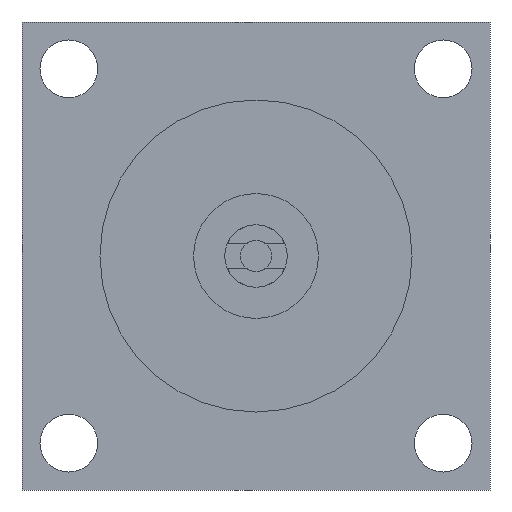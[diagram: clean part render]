
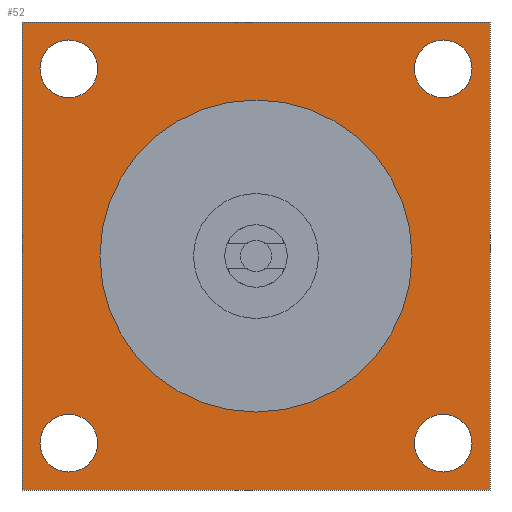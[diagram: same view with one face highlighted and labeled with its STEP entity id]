
A CAD part, left-side view. The second image highlights one B-rep face of the part: STEP entity #52.
In plain terms, the highlighted planar face has unit normal (-1, 0, 0).
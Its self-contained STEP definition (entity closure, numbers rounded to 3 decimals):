
#5 = LINE ( 'NONE', #151, #1049 ) ;
#16 = CARTESIAN_POINT ( 'NONE',  ( -20., -60., 60. ) ) ;
#52 = ADVANCED_FACE ( 'NONE', ( #1219, #1122, #791, #1509, #749, #369 ), #912, .F. ) ;
#89 = CARTESIAN_POINT ( 'NONE',  ( -20., 0., 0. ) ) ;
#94 = AXIS2_PLACEMENT_3D ( 'NONE', #899, #779, #921 ) ;
#106 = DIRECTION ( 'NONE',  ( -1., 0., 0. ) ) ;
#118 = DIRECTION ( 'NONE',  ( 0., 0., -1. ) ) ;
#120 = DIRECTION ( 'NONE',  ( 0., -1., 0. ) ) ;
#151 = CARTESIAN_POINT ( 'NONE',  ( -20., 75., -75. ) ) ;
#156 = AXIS2_PLACEMENT_3D ( 'NONE', #1499, #729, #905 ) ;
#158 = CIRCLE ( 'NONE', #1460, 50. ) ;
#161 = EDGE_CURVE ( 'NONE', #380, #1702, #205, .T. ) ;
#170 = CIRCLE ( 'NONE', #512, 9.25 ) ;
#193 = AXIS2_PLACEMENT_3D ( 'NONE', #1033, #1221, #1257 ) ;
#205 = CIRCLE ( 'NONE', #758, 50. ) ;
#227 = VERTEX_POINT ( 'NONE', #317 ) ;
#244 = VERTEX_POINT ( 'NONE', #500 ) ;
#247 = ORIENTED_EDGE ( 'NONE', *, *, #1355, .F. ) ;
#250 = CARTESIAN_POINT ( 'NONE',  ( -20., 75., 75. ) ) ;
#280 = CIRCLE ( 'NONE', #193, 9.25 ) ;
#298 = VERTEX_POINT ( 'NONE', #639 ) ;
#317 = CARTESIAN_POINT ( 'NONE',  ( -20., -60., -50.75 ) ) ;
#323 = CARTESIAN_POINT ( 'NONE',  ( -20., 75., 75. ) ) ;
#369 = FACE_OUTER_BOUND ( 'NONE', #973, .T. ) ;
#373 = ORIENTED_EDGE ( 'NONE', *, *, #1829, .T. ) ;
#380 = VERTEX_POINT ( 'NONE', #1405 ) ;
#383 = EDGE_LOOP ( 'NONE', ( #1543, #1622 ) ) ;
#384 = ORIENTED_EDGE ( 'NONE', *, *, #1167, .F. ) ;
#388 = VECTOR ( 'NONE', #1466, 1000. ) ;
#400 = EDGE_CURVE ( 'NONE', #1527, #1093, #1640, .T. ) ;
#407 = VERTEX_POINT ( 'NONE', #1538 ) ;
#409 = VECTOR ( 'NONE', #1774, 1000. ) ;
#436 = ORIENTED_EDGE ( 'NONE', *, *, #1103, .F. ) ;
#439 = EDGE_CURVE ( 'NONE', #298, #1782, #170, .T. ) ;
#464 = CARTESIAN_POINT ( 'NONE',  ( -20., 60., -69.25 ) ) ;
#469 = CARTESIAN_POINT ( 'NONE',  ( -20., 60., -60. ) ) ;
#486 = DIRECTION ( 'NONE',  ( -1., 0., 0. ) ) ;
#488 = ORIENTED_EDGE ( 'NONE', *, *, #1344, .F. ) ;
#495 = EDGE_LOOP ( 'NONE', ( #1057, #384 ) ) ;
#500 = CARTESIAN_POINT ( 'NONE',  ( -20., 60., 69.25 ) ) ;
#501 = VECTOR ( 'NONE', #1493, 1000. ) ;
#512 = AXIS2_PLACEMENT_3D ( 'NONE', #1656, #1669, #1673 ) ;
#554 = CIRCLE ( 'NONE', #1609, 9.25 ) ;
#576 = DIRECTION ( 'NONE',  ( 0., 0., 1. ) ) ;
#582 = EDGE_CURVE ( 'NONE', #244, #1511, #280, .T. ) ;
#610 = CARTESIAN_POINT ( 'NONE',  ( -20., 60., 60. ) ) ;
#618 = DIRECTION ( 'NONE',  ( -1., 0., 0. ) ) ;
#626 = ORIENTED_EDGE ( 'NONE', *, *, #582, .F. ) ;
#639 = CARTESIAN_POINT ( 'NONE',  ( -20., -60., 50.75 ) ) ;
#643 = CIRCLE ( 'NONE', #1426, 9.25 ) ;
#652 = EDGE_LOOP ( 'NONE', ( #626, #488 ) ) ;
#667 = CIRCLE ( 'NONE', #877, 9.25 ) ;
#681 = DIRECTION ( 'NONE',  ( 0., 0., 1. ) ) ;
#729 = DIRECTION ( 'NONE',  ( -1., 0., 0. ) ) ;
#749 = FACE_BOUND ( 'NONE', #1383, .T. ) ;
#750 = CARTESIAN_POINT ( 'NONE',  ( -20., 0., 50. ) ) ;
#758 = AXIS2_PLACEMENT_3D ( 'NONE', #89, #106, #118 ) ;
#764 = EDGE_CURVE ( 'NONE', #1202, #227, #811, .T. ) ;
#779 = DIRECTION ( 'NONE',  ( 1., 0., 0. ) ) ;
#791 = FACE_BOUND ( 'NONE', #383, .T. ) ;
#811 = CIRCLE ( 'NONE', #156, 9.25 ) ;
#814 = CARTESIAN_POINT ( 'NONE',  ( -20., 60., -60. ) ) ;
#844 = DIRECTION ( 'NONE',  ( -1., 0., 0. ) ) ;
#852 = DIRECTION ( 'NONE',  ( 0., 0., 1. ) ) ;
#877 = AXIS2_PLACEMENT_3D ( 'NONE', #469, #486, #576 ) ;
#899 = CARTESIAN_POINT ( 'NONE',  ( -20., 0., 0. ) ) ;
#905 = DIRECTION ( 'NONE',  ( 0., 0., 1. ) ) ;
#912 = PLANE ( 'NONE',  #94 ) ;
#920 = VERTEX_POINT ( 'NONE', #1205 ) ;
#921 = DIRECTION ( 'NONE',  ( 0., 0., -1. ) ) ;
#928 = CIRCLE ( 'NONE', #1836, 9.25 ) ;
#929 = ORIENTED_EDGE ( 'NONE', *, *, #1106, .F. ) ;
#973 = EDGE_LOOP ( 'NONE', ( #1223, #373, #1385, #1551 ) ) ;
#1033 = CARTESIAN_POINT ( 'NONE',  ( -20., 60., 60. ) ) ;
#1049 = VECTOR ( 'NONE', #120, 1000. ) ;
#1050 = DIRECTION ( 'NONE',  ( 0., 0., -1. ) ) ;
#1057 = ORIENTED_EDGE ( 'NONE', *, *, #161, .F. ) ;
#1069 = AXIS2_PLACEMENT_3D ( 'NONE', #16, #1323, #1187 ) ;
#1071 = EDGE_LOOP ( 'NONE', ( #436, #1749 ) ) ;
#1081 = EDGE_CURVE ( 'NONE', #407, #1485, #5, .T. ) ;
#1093 = VERTEX_POINT ( 'NONE', #250 ) ;
#1103 = EDGE_CURVE ( 'NONE', #1782, #298, #1434, .T. ) ;
#1106 = EDGE_CURVE ( 'NONE', #1229, #920, #667, .T. ) ;
#1122 = FACE_BOUND ( 'NONE', #1071, .T. ) ;
#1133 = CARTESIAN_POINT ( 'NONE',  ( -20., 0., 0. ) ) ;
#1152 = DIRECTION ( 'NONE',  ( -1., 0., 0. ) ) ;
#1167 = EDGE_CURVE ( 'NONE', #1702, #380, #158, .T. ) ;
#1187 = DIRECTION ( 'NONE',  ( 0., 0., 1. ) ) ;
#1202 = VERTEX_POINT ( 'NONE', #1761 ) ;
#1205 = CARTESIAN_POINT ( 'NONE',  ( -20., 60., -50.75 ) ) ;
#1219 = FACE_BOUND ( 'NONE', #495, .T. ) ;
#1221 = DIRECTION ( 'NONE',  ( -1., 0., 0. ) ) ;
#1223 = ORIENTED_EDGE ( 'NONE', *, *, #1081, .T. ) ;
#1229 = VERTEX_POINT ( 'NONE', #464 ) ;
#1236 = EDGE_CURVE ( 'NONE', #1093, #407, #1833, .T. ) ;
#1257 = DIRECTION ( 'NONE',  ( 0., 0., 1. ) ) ;
#1323 = DIRECTION ( 'NONE',  ( -1., 0., 0. ) ) ;
#1344 = EDGE_CURVE ( 'NONE', #1511, #244, #643, .T. ) ;
#1355 = EDGE_CURVE ( 'NONE', #920, #1229, #554, .T. ) ;
#1383 = EDGE_LOOP ( 'NONE', ( #247, #929 ) ) ;
#1385 = ORIENTED_EDGE ( 'NONE', *, *, #400, .T. ) ;
#1405 = CARTESIAN_POINT ( 'NONE',  ( -20., 0., -50. ) ) ;
#1426 = AXIS2_PLACEMENT_3D ( 'NONE', #610, #618, #681 ) ;
#1429 = CARTESIAN_POINT ( 'NONE',  ( -20., -60., 69.25 ) ) ;
#1434 = CIRCLE ( 'NONE', #1069, 9.25 ) ;
#1460 = AXIS2_PLACEMENT_3D ( 'NONE', #1133, #1152, #1050 ) ;
#1466 = DIRECTION ( 'NONE',  ( 0., 0., -1. ) ) ;
#1485 = VERTEX_POINT ( 'NONE', #1846 ) ;
#1493 = DIRECTION ( 'NONE',  ( 0., 1., 0. ) ) ;
#1499 = CARTESIAN_POINT ( 'NONE',  ( -20., -60., -60. ) ) ;
#1509 = FACE_BOUND ( 'NONE', #652, .T. ) ;
#1511 = VERTEX_POINT ( 'NONE', #1573 ) ;
#1527 = VERTEX_POINT ( 'NONE', #1554 ) ;
#1538 = CARTESIAN_POINT ( 'NONE',  ( -20., 75., -75. ) ) ;
#1543 = ORIENTED_EDGE ( 'NONE', *, *, #1793, .F. ) ;
#1550 = CARTESIAN_POINT ( 'NONE',  ( -20., -60., -60. ) ) ;
#1551 = ORIENTED_EDGE ( 'NONE', *, *, #1236, .T. ) ;
#1554 = CARTESIAN_POINT ( 'NONE',  ( -20., -75., 75. ) ) ;
#1561 = DIRECTION ( 'NONE',  ( -1., 0., 0. ) ) ;
#1573 = CARTESIAN_POINT ( 'NONE',  ( -20., 60., 50.75 ) ) ;
#1574 = DIRECTION ( 'NONE',  ( 0., 0., 1. ) ) ;
#1609 = AXIS2_PLACEMENT_3D ( 'NONE', #814, #844, #852 ) ;
#1622 = ORIENTED_EDGE ( 'NONE', *, *, #764, .F. ) ;
#1640 = LINE ( 'NONE', #1731, #501 ) ;
#1656 = CARTESIAN_POINT ( 'NONE',  ( -20., -60., 60. ) ) ;
#1669 = DIRECTION ( 'NONE',  ( -1., 0., 0. ) ) ;
#1673 = DIRECTION ( 'NONE',  ( 0., 0., 1. ) ) ;
#1687 = LINE ( 'NONE', #1769, #409 ) ;
#1702 = VERTEX_POINT ( 'NONE', #750 ) ;
#1731 = CARTESIAN_POINT ( 'NONE',  ( -20., 75., 75. ) ) ;
#1749 = ORIENTED_EDGE ( 'NONE', *, *, #439, .F. ) ;
#1761 = CARTESIAN_POINT ( 'NONE',  ( -20., -60., -69.25 ) ) ;
#1769 = CARTESIAN_POINT ( 'NONE',  ( -20., -75., 75. ) ) ;
#1774 = DIRECTION ( 'NONE',  ( 0., 0., 1. ) ) ;
#1782 = VERTEX_POINT ( 'NONE', #1429 ) ;
#1793 = EDGE_CURVE ( 'NONE', #227, #1202, #928, .T. ) ;
#1829 = EDGE_CURVE ( 'NONE', #1485, #1527, #1687, .T. ) ;
#1833 = LINE ( 'NONE', #323, #388 ) ;
#1836 = AXIS2_PLACEMENT_3D ( 'NONE', #1550, #1561, #1574 ) ;
#1846 = CARTESIAN_POINT ( 'NONE',  ( -20., -75., -75. ) ) ;
